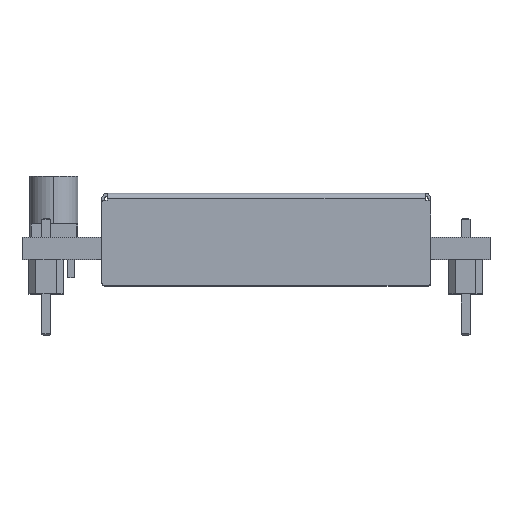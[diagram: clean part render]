
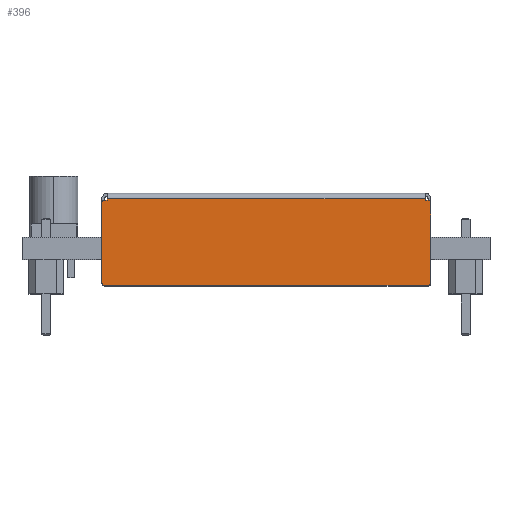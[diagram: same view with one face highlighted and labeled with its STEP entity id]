
A CAD part, top view. The second image highlights one B-rep face of the part: STEP entity #396.
In plain terms, the highlighted planar face has unit normal (0, 0, 1).
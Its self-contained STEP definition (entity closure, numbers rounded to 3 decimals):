
#396=ADVANCED_FACE('',(#2303),#2302,.T.);
#2302=PLANE('',#7805);
#2303=FACE_OUTER_BOUND('',#7806,.T.);
#7802=CARTESIAN_POINT('',(-50.167,5.03,32.803));
#7803=DIRECTION('',(0.,0.,1.));
#7804=DIRECTION('',(0.,-1.,0.));
#7805=AXIS2_PLACEMENT_3D('',#7802,#7803,#7804);
#7806=EDGE_LOOP('',(#10928,#10929,#10930,#10931,#10932,#10933,#10934,#10935,#10936,#10937,#10938,#10939));
#10928=ORIENTED_EDGE('',*,*,#13612,.F.);
#10929=ORIENTED_EDGE('',*,*,#13613,.T.);
#10930=ORIENTED_EDGE('',*,*,#13614,.T.);
#10931=ORIENTED_EDGE('',*,*,#13615,.T.);
#10932=ORIENTED_EDGE('',*,*,#13616,.T.);
#10933=ORIENTED_EDGE('',*,*,#13617,.T.);
#10934=ORIENTED_EDGE('',*,*,#13618,.F.);
#10935=ORIENTED_EDGE('',*,*,#13619,.T.);
#10936=ORIENTED_EDGE('',*,*,#13620,.T.);
#10937=ORIENTED_EDGE('',*,*,#13621,.F.);
#10938=ORIENTED_EDGE('',*,*,#13622,.F.);
#10939=ORIENTED_EDGE('',*,*,#13623,.T.);
#13612=EDGE_CURVE('',#17362,#17363,#17364,.T.);
#13613=EDGE_CURVE('',#17362,#17370,#17371,.T.);
#13614=EDGE_CURVE('',#17370,#17377,#17378,.T.);
#13615=EDGE_CURVE('',#17377,#17384,#17385,.T.);
#13616=EDGE_CURVE('',#17384,#17391,#17392,.T.);
#13617=EDGE_CURVE('',#17391,#17398,#17399,.T.);
#13618=EDGE_CURVE('',#17405,#17398,#17406,.T.);
#13619=EDGE_CURVE('',#17405,#17412,#17413,.T.);
#13620=EDGE_CURVE('',#17412,#17419,#17420,.T.);
#13621=EDGE_CURVE('',#17426,#17419,#17427,.T.);
#13622=EDGE_CURVE('',#17433,#17426,#17434,.T.);
#13623=EDGE_CURVE('',#17433,#17363,#17440,.T.);
#17362=VERTEX_POINT('',#26352);
#17363=VERTEX_POINT('',#26353);
#17364=LINE('',#26354,#26355);
#17370=VERTEX_POINT('',#26357);
#17371=CIRCLE('',#26361,0.2);
#17377=VERTEX_POINT('',#26362);
#17378=LINE('',#26363,#26364);
#17384=VERTEX_POINT('',#26366);
#17385=CIRCLE('',#26370,0.2);
#17391=VERTEX_POINT('',#26371);
#17392=LINE('',#26372,#26373);
#17398=VERTEX_POINT('',#26375);
#17399=CIRCLE('',#26379,0.2);
#17405=VERTEX_POINT('',#26380);
#17406=LINE('',#26381,#26382);
#17412=VERTEX_POINT('',#26384);
#17413=LINE('',#26385,#26386);
#17419=VERTEX_POINT('',#26388);
#17420=LINE('',#26389,#26390);
#17426=VERTEX_POINT('',#26392);
#17427=LINE('',#26393,#26394);
#17433=VERTEX_POINT('',#26396);
#17434=LINE('',#26397,#26398);
#17440=CIRCLE('',#26403,0.2);
#26352=CARTESIAN_POINT('',(-47.777,-1.7,32.803));
#26353=CARTESIAN_POINT('',(-47.777,4.1,32.803));
#26354=CARTESIAN_POINT('',(-47.777,-1.7,32.803));
#26355=VECTOR('',#26356,5.8);
#26356=DIRECTION('',(0.,1.,0.));
#26357=CARTESIAN_POINT('',(-47.577,-1.9,32.803));
#26358=CARTESIAN_POINT('',(-47.577,-1.7,32.803));
#26359=DIRECTION('',(0.,0.,1.));
#26360=DIRECTION('',(-1.,0.,0.));
#26361=AXIS2_PLACEMENT_3D('',#26358,#26359,#26360);
#26362=CARTESIAN_POINT('',(-24.077,-1.9,32.803));
#26363=CARTESIAN_POINT('',(-47.577,-1.9,32.803));
#26364=VECTOR('',#26365,23.5);
#26365=DIRECTION('',(1.,0.,0.));
#26366=CARTESIAN_POINT('',(-23.877,-1.7,32.803));
#26367=CARTESIAN_POINT('',(-24.077,-1.7,32.803));
#26368=DIRECTION('',(0.,0.,1.));
#26369=DIRECTION('',(-1.,0.,0.));
#26370=AXIS2_PLACEMENT_3D('',#26367,#26368,#26369);
#26371=CARTESIAN_POINT('',(-23.877,4.1,32.803));
#26372=CARTESIAN_POINT('',(-23.877,-1.7,32.803));
#26373=VECTOR('',#26374,5.8);
#26374=DIRECTION('',(0.,1.,0.));
#26375=CARTESIAN_POINT('',(-24.077,4.3,32.803));
#26376=CARTESIAN_POINT('',(-24.077,4.1,32.803));
#26377=DIRECTION('',(0.,0.,1.));
#26378=DIRECTION('',(-1.,0.,0.));
#26379=AXIS2_PLACEMENT_3D('',#26376,#26377,#26378);
#26380=CARTESIAN_POINT('',(-24.277,4.3,32.803));
#26381=CARTESIAN_POINT('',(-24.277,4.3,32.803));
#26382=VECTOR('',#26383,0.2);
#26383=DIRECTION('',(1.,0.,0.));
#26384=CARTESIAN_POINT('',(-24.277,4.4,32.803));
#26385=CARTESIAN_POINT('',(-24.277,4.3,32.803));
#26386=VECTOR('',#26387,0.1);
#26387=DIRECTION('',(0.,1.,0.));
#26388=CARTESIAN_POINT('',(-47.377,4.4,32.803));
#26389=CARTESIAN_POINT('',(-24.277,4.4,32.803));
#26390=VECTOR('',#26391,23.1);
#26391=DIRECTION('',(-1.,0.,0.));
#26392=CARTESIAN_POINT('',(-47.377,4.3,32.803));
#26393=CARTESIAN_POINT('',(-47.377,4.3,32.803));
#26394=VECTOR('',#26395,0.1);
#26395=DIRECTION('',(0.,1.,0.));
#26396=CARTESIAN_POINT('',(-47.577,4.3,32.803));
#26397=CARTESIAN_POINT('',(-47.577,4.3,32.803));
#26398=VECTOR('',#26399,0.2);
#26399=DIRECTION('',(1.,0.,0.));
#26400=CARTESIAN_POINT('',(-47.577,4.1,32.803));
#26401=DIRECTION('',(0.,0.,1.));
#26402=DIRECTION('',(-1.,0.,0.));
#26403=AXIS2_PLACEMENT_3D('',#26400,#26401,#26402);
